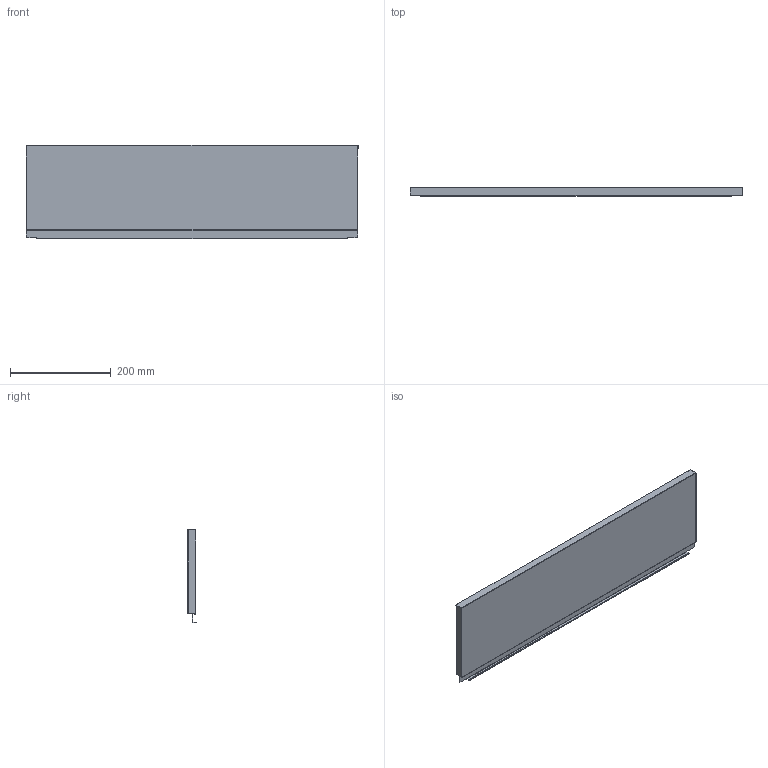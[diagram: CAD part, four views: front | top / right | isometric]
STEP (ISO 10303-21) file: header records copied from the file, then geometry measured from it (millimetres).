
FILE_DESCRIPTION (( 'STEP AP214' ), '1' );
FILE_NAME ('_STRW_H186_KAB_750.step', '2010-08-24T14:40:27', ( 'grass' ), ( '' ), 'SwSTEP 2.0', 'SolidWorks 2009', '' );
FILE_SCHEMA (( 'AUTOMOTIVE_DESIGN' ));
Length unit declared in the file: millimetre
Products named in the file (1): _STRW_H186_KAB_750
Bounding box: 660 x 17 x 186.14 mm (x, y, z)
Volume: 117592.8 mm3; surface area: 295457.5 mm2
Topology: 1 solids, 1 shells, 76 faces, 214 edges, 140 vertices
Faces by surface type: plane 54, cylinder 22
Entity records: 2472 total; most frequent: CARTESIAN_POINT 431, ORIENTED_EDGE 428, DIRECTION 412, EDGE_CURVE 214, LINE 170, VECTOR 170, VERTEX_POINT 140, AXIS2_PLACEMENT_3D 121
